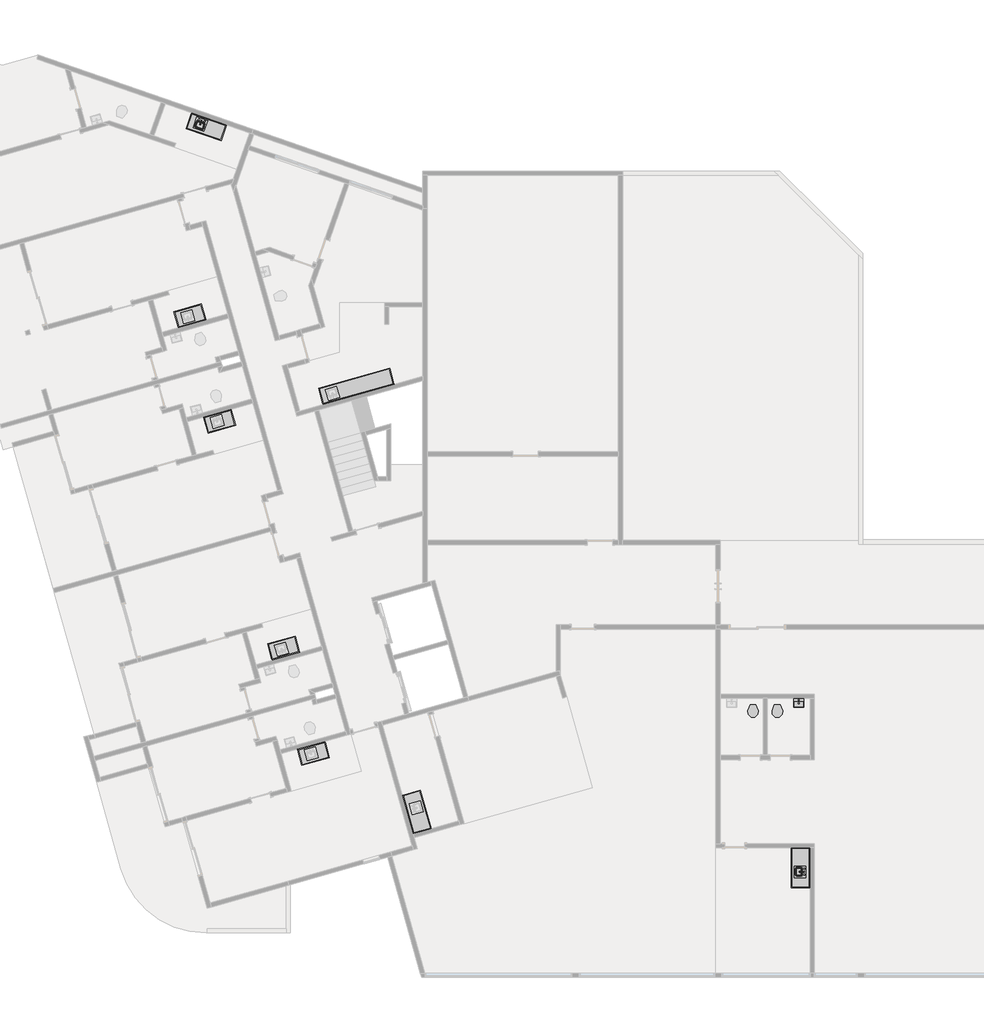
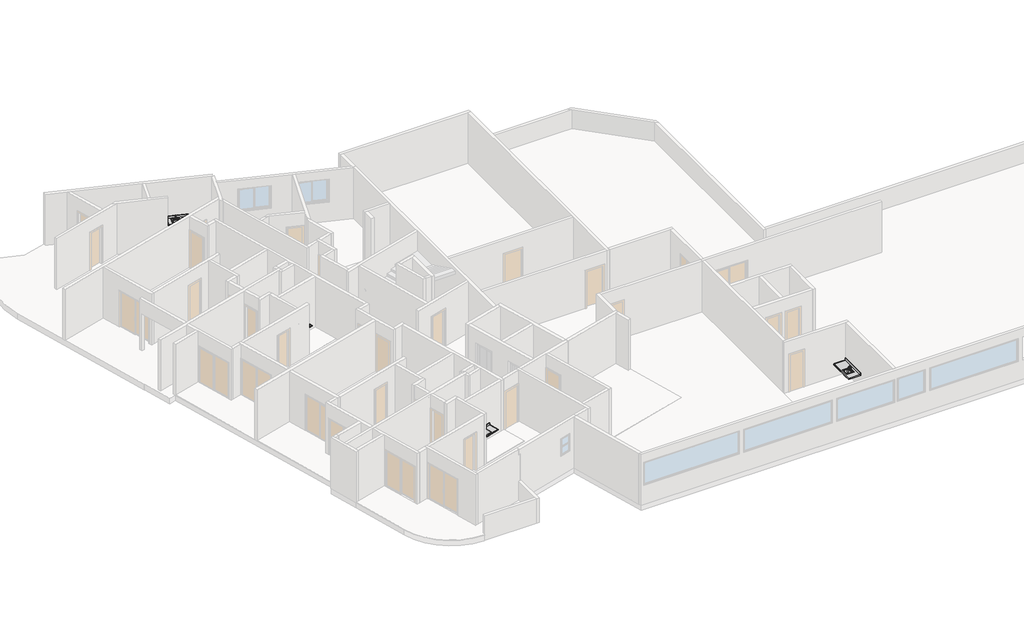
# One storey, part 7 of 7: 8 proxies, 5 flow terminals.
"""IFC4 building model written with IfcOpenShell, lengths in millimetres."""

from ifc_helpers import new_model, si_unit, origin, place, context, project, spatial, transform, mapped, element, save
from components import rf_bancada_cozinha_rf_bancada_cozinha_340fef9f, rf_bancada_cozinha_rf_bancada_cozinha_cfb88ba1, rf_bancada_cozinha_rf_bancada_cozinha_2f873929, rf_bancada_cozinha_rf_bancada_cozinha_798ceddf, rf_bancada_cozinha_rf_bancada_cozinha_2d60196a, flow_terminal_cab7bae2, flow_terminal_3fb7dc42, flow_terminal_c6e042c4, ap_01_creme_cr37_13e02e03, ap_01_creme_cr37_5ce6e54d

model = new_model("IFC4")

# Units and contexts
model_context = context("Model", 3, world=origin())
ifc_project = project(units=[si_unit("LENGTHUNIT", "METRE", prefix="MILLI")], contexts=[model_context])

# Site, building, storey
site = spatial("IfcSite", under=ifc_project)
building = spatial("IfcBuilding", under=site)
storey = spatial("IfcBuildingStorey", under=building, Name="Térreo", Elevation=50750.0)

# Proxies
placement = place(None, origin())
rf_bancada_cozinha_rf_bancada_cozinha_shape = rf_bancada_cozinha_rf_bancada_cozinha_340fef9f(model_context)
element("IfcBuildingElementProxy", 1, Name="RF_Bancada Cozinha : RF_Bancada Cozinha", ObjectType="RF_Bancada Cozinha : RF_Bancada Cozinha", at=placement, inside=storey, context=model_context, shape_type="MappedRepresentation", body=[
    mapped(rf_bancada_cozinha_rf_bancada_cozinha_shape, transform((-82760.548019, 26451.5820971, 51500.0), x_axis=(-0.9623628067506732, -0.27176796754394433, 0.0), y_axis=(0.27176796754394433, -0.9623628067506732, 0.0), z_axis=(0.0, 0.0, 1.0))),
])
element("IfcBuildingElementProxy", 2, Name="RF_Bancada Cozinha : RF_Bancada Cozinha", ObjectType="RF_Bancada Cozinha : RF_Bancada Cozinha", at=placement, inside=storey, context=model_context, shape_type="MappedRepresentation", body=[
    mapped(rf_bancada_cozinha_rf_bancada_cozinha_shape, transform((-79472.1556117, 14806.9921354, 51500.0), x_axis=(-0.9623628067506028, -0.2717679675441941, 0.0), y_axis=(0.2717679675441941, -0.9623628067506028, 0.0), z_axis=(0.0, 0.0, 1.0))),
])
rf_bancada_cozinha_rf_bancada_cozinha_2_shape = rf_bancada_cozinha_rf_bancada_cozinha_cfb88ba1(model_context)
element("IfcBuildingElementProxy", 3, Name="RF_Bancada Cozinha : RF_Bancada Cozinha", ObjectType="RF_Bancada Cozinha : RF_Bancada Cozinha", at=placement, inside=storey, context=model_context, shape_type="MappedRepresentation", body=[
    mapped(rf_bancada_cozinha_rf_bancada_cozinha_2_shape, transform((-81877.3021245, 23323.9029751, 51500.0), x_axis=(-0.9623628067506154, -0.27176796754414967, 0.0), y_axis=(0.27176796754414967, -0.9623628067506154, 0.0), z_axis=(0.0, 0.0, 1.0))),
])
element("IfcBuildingElementProxy", 4, Name="RF_Bancada Cozinha : RF_Bancada Cozinha", ObjectType="RF_Bancada Cozinha : RF_Bancada Cozinha", at=placement, inside=storey, context=model_context, shape_type="MappedRepresentation", body=[
    mapped(rf_bancada_cozinha_rf_bancada_cozinha_2_shape, transform((-78588.9097172, 11679.3130134, 51500.0), x_axis=(-0.9623628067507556, -0.27176796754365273, 0.0), y_axis=(0.27176796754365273, -0.9623628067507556, 0.0), z_axis=(0.0, 0.0, 1.0))),
])
rf_bancada_cozinha_rf_bancada_cozinha_3_shape = rf_bancada_cozinha_rf_bancada_cozinha_2f873929(model_context)
element("IfcBuildingElementProxy", 5, Name="RF_Bancada Cozinha : RF_Bancada Cozinha", ObjectType="RF_Bancada Cozinha : RF_Bancada Cozinha", at=placement, inside=storey, context=model_context, shape_type="MappedRepresentation", body=[
    mapped(rf_bancada_cozinha_rf_bancada_cozinha_3_shape, transform((-82030.0326121, 33293.9830661, 51500.0), x_axis=(-0.9449109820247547, 0.32732741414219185, 0.0), y_axis=(-0.32732741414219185, -0.9449109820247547, 0.0), z_axis=(0.0, 0.0, 1.0))),
])
rf_bancada_cozinha_rf_bancada_cozinha_4_shape = rf_bancada_cozinha_rf_bancada_cozinha_798ceddf(model_context)
element("IfcBuildingElementProxy", 6, Name="RF_Bancada Cozinha : RF_Bancada Cozinha", ObjectType="RF_Bancada Cozinha : RF_Bancada Cozinha", at=placement, inside=storey, context=model_context, shape_type="MappedRepresentation", body=[
    mapped(rf_bancada_cozinha_rf_bancada_cozinha_4_shape, transform((-76157.6622331, 24197.9763092, 51500.0), x_axis=(-0.9623628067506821, -0.27176796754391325, 0.0), y_axis=(0.27176796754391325, -0.9623628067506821, 0.0), z_axis=(0.0, 0.0, 1.0))),
])
rf_bancada_cozinha_rf_bancada_cozinha_5_shape = rf_bancada_cozinha_rf_bancada_cozinha_2d60196a(model_context)
element("IfcBuildingElementProxy", 7, Name="RF_Bancada Cozinha : RF_Bancada Cozinha", ObjectType="RF_Bancada Cozinha : RF_Bancada Cozinha", at=placement, inside=storey, context=model_context, shape_type="MappedRepresentation", body=[
    mapped(rf_bancada_cozinha_rf_bancada_cozinha_5_shape, transform((-75494.7332941, 8449.6450176, 51480.0), x_axis=(-0.27176796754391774, 0.9623628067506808, 0.0), y_axis=(-0.9623628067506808, -0.27176796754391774, 0.0), z_axis=(0.0, 0.0, 1.0))),
])
element("IfcBuildingElementProxy", 8, Name="RF_Bancada Cozinha : RF_Bancada Cozinha", ObjectType="RF_Bancada Cozinha : RF_Bancada Cozinha", at=placement, inside=storey, context=model_context, shape_type="MappedRepresentation", body=[
    mapped(rf_bancada_cozinha_rf_bancada_cozinha_5_shape, transform((-61580.7937868, 7953.4535975, 51480.0), x_axis=(0.0, -1.0, 0.0), y_axis=(1.0, 0.0, 0.0), z_axis=(0.0, 0.0, 1.0))),
])

# Flow terminals
flow_terminal_shape = flow_terminal_cab7bae2(model_context)
element("IfcFlowTerminal", 9, ObjectType="RF_Pias : Pia da Bancada", at=placement, inside=storey, context=model_context, shape_type="MappedRepresentation", body=[
    mapped(flow_terminal_shape, transform((-61937.4391879, 7129.6428381, 50582.9), x_axis=(0.0, -1.0, 0.0), y_axis=(1.0, 0.0, 0.0), z_axis=(0.0, 0.0, 1.0))),
])
flow_terminal_2_shape = flow_terminal_3fb7dc42(model_context)
element("IfcFlowTerminal", 10, ObjectType="Deca_Cuba de Apoio Retangular_L7300 : L.7300.17_Branco Gelo GE17", at=placement, inside=storey, context=model_context, shape_type="MappedRepresentation", body=[
    mapped(flow_terminal_2_shape, transform((-61980.7937868, 13026.8602024, 51500.0), x_axis=(1.0, 0.0, 0.0), y_axis=(0.0, 1.0, 0.0), z_axis=(0.0, 0.0, 1.0))),
])
flow_terminal_3_shape = flow_terminal_c6e042c4(model_context)
element("IfcFlowTerminal", 11, ObjectType="RF_Pias : Pia da Bancada", at=placement, inside=storey, context=model_context, shape_type="MappedRepresentation", body=[
    mapped(flow_terminal_3_shape, transform((-82939.3392028, 33309.5545572, 50602.9), x_axis=(-0.9449109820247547, 0.32732741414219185, 0.0), y_axis=(-0.32732741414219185, -0.9449109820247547, 0.0), z_axis=(0.0, 0.0, 1.0))),
])
ap_01_creme_cr37_shape = ap_01_creme_cr37_13e02e03(model_context)
element("IfcFlowTerminal", 12, ObjectType="Deca_Shared_Assento_P.900 : AP.01_Creme CR37", at=placement, inside=storey, context=model_context, shape_type="MappedRepresentation", body=[
    mapped(ap_01_creme_cr37_shape, transform((-62730.7937868, 12961.2099289, 51137.8723674), x_axis=(1.0, 0.0, 0.0), y_axis=(0.0, 0.0, 1.0), z_axis=(0.0, -1.0, 0.0))),
])
ap_01_creme_cr37_2_shape = ap_01_creme_cr37_5ce6e54d(model_context)
element("IfcFlowTerminal", 13, ObjectType="Deca_Shared_Assento_P.900 : AP.01_Creme CR37", at=placement, inside=storey, context=model_context, shape_type="MappedRepresentation", body=[
    mapped(ap_01_creme_cr37_2_shape, transform((-63580.7937868, 12961.2099289, 51137.8723674), x_axis=(-1.0, 0.0, 0.0), y_axis=(0.0, 0.0, -1.0), z_axis=(0.0, -1.0, 0.0))),
])

save(model, "model.ifc")
